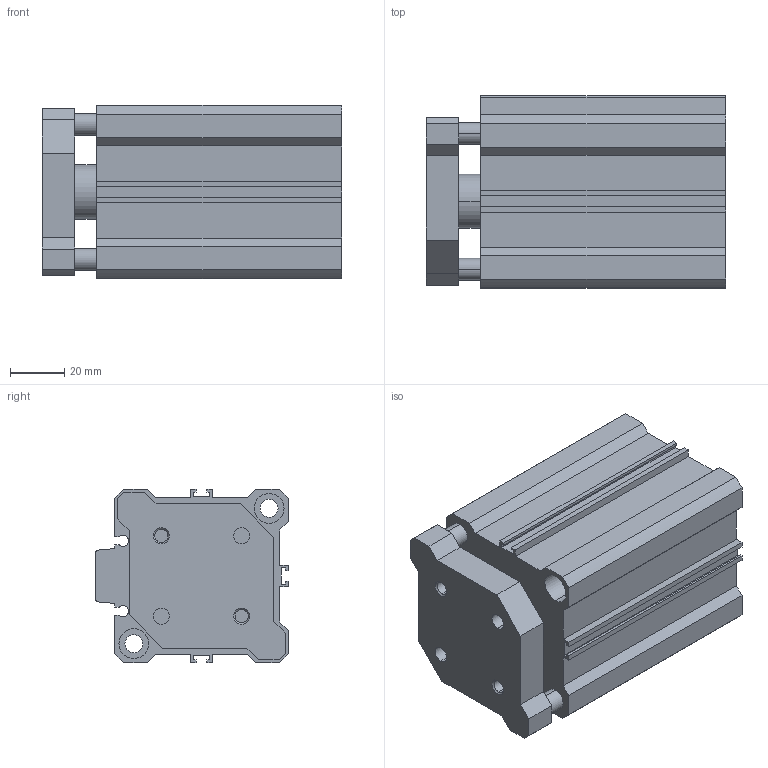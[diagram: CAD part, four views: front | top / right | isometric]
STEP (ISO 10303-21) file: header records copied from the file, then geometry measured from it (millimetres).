
FILE_DESCRIPTION (( 'STEP AP203' ), '1' );
FILE_NAME ('CCMG50-50.STEP', '2020-04-01T18:47:41', ( '' ), ( '' ), 'SwSTEP 2.0', 'SolidWorks 2019', '' );
FILE_SCHEMA (( 'CONFIG_CONTROL_DESIGN' ));
Length unit declared in the file: millimetre
Products named in the file (1): CCMG50-50
Bounding box: 110.5 x 71 x 64 mm (x, y, z)
Volume: 295452.9 mm3; surface area: 81528.9 mm2
Topology: 2 solids, 2 shells, 162 faces, 422 edges, 274 vertices
Faces by surface type: plane 92, cylinder 54, cone 16
Entity records: 5029 total; most frequent: DIRECTION 864, CARTESIAN_POINT 855, ORIENTED_EDGE 836, EDGE_CURVE 418, LINE 298, VECTOR 298, AXIS2_PLACEMENT_3D 283, VERTEX_POINT 274
